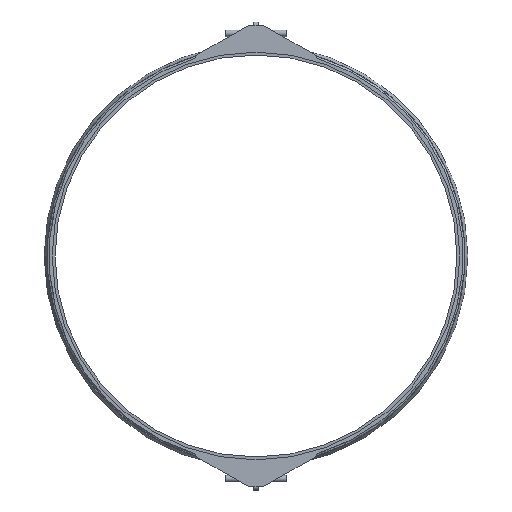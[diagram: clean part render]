
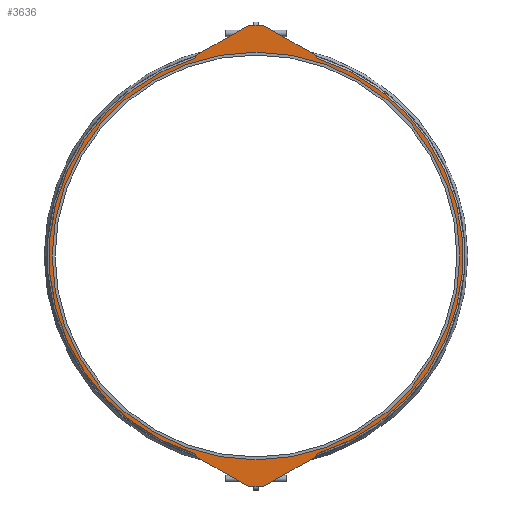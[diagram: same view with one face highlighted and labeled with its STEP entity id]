
A CAD part, left-side view. The second image highlights one B-rep face of the part: STEP entity #3636.
In plain terms, the highlighted planar face has unit normal (-1, 0, 0).
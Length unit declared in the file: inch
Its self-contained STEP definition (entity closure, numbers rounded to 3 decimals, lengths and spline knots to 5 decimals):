
#94=FACE_BOUND('',#642,.T.);
#230=PLANE('',#3965);
#421=FACE_OUTER_BOUND('',#641,.T.);
#641=EDGE_LOOP('',(#3188,#3189,#3190,#3191,#3192,#3193,#3194,#3195,#3196,
#3197,#3198,#3199,#3200,#3201,#3202,#3203,#3204,#3205,#3206,#3207));
#642=EDGE_LOOP('',(#3208,#3209));
#763=LINE('',#5299,#1114);
#769=LINE('',#5315,#1120);
#772=LINE('',#5325,#1123);
#777=LINE('',#5336,#1128);
#779=LINE('',#5361,#1130);
#938=LINE('',#5894,#1289);
#949=LINE('',#5925,#1300);
#951=LINE('',#5932,#1302);
#955=LINE('',#5941,#1306);
#958=LINE('',#5949,#1309);
#1114=VECTOR('',#4267,0.3937);
#1120=VECTOR('',#4281,0.3937);
#1123=VECTOR('',#4292,0.3937);
#1128=VECTOR('',#4303,0.3937);
#1130=VECTOR('',#4311,0.3937);
#1289=VECTOR('',#4724,0.3937);
#1300=VECTOR('',#4751,0.3937);
#1302=VECTOR('',#4759,0.3937);
#1306=VECTOR('',#4769,0.3937);
#1309=VECTOR('',#4778,0.3937);
#1369=CIRCLE('',#3742,0.063);
#1371=CIRCLE('',#3746,0.125);
#1372=CIRCLE('',#3749,0.125);
#1373=CIRCLE('',#3752,0.063);
#1376=CIRCLE('',#3758,27.425);
#1377=CIRCLE('',#3760,27.425);
#1423=CIRCLE('',#3890,0.063);
#1424=CIRCLE('',#3893,0.125);
#1425=CIRCLE('',#3896,0.125);
#1426=CIRCLE('',#3899,0.063);
#1461=CIRCLE('',#3963,27.);
#1462=CIRCLE('',#3964,27.);
#1562=VERTEX_POINT('',#5279);
#1563=VERTEX_POINT('',#5298);
#1566=VERTEX_POINT('',#5305);
#1567=VERTEX_POINT('',#5307);
#1569=VERTEX_POINT('',#5313);
#1571=VERTEX_POINT('',#5319);
#1572=VERTEX_POINT('',#5323);
#1574=VERTEX_POINT('',#5330);
#1575=VERTEX_POINT('',#5334);
#1577=VERTEX_POINT('',#5341);
#1580=VERTEX_POINT('',#5369);
#1581=VERTEX_POINT('',#5390);
#1716=VERTEX_POINT('',#5893);
#1728=VERTEX_POINT('',#5923);
#1729=VERTEX_POINT('',#5927);
#1730=VERTEX_POINT('',#5931);
#1731=VERTEX_POINT('',#5935);
#1732=VERTEX_POINT('',#5940);
#1733=VERTEX_POINT('',#5944);
#1734=VERTEX_POINT('',#5948);
#1777=VERTEX_POINT('',#6091);
#1778=VERTEX_POINT('',#6093);
#1923=EDGE_CURVE('',#1562,#1563,#763,.T.);
#1927=EDGE_CURVE('',#1566,#1567,#1369,.T.);
#1931=EDGE_CURVE('',#1569,#1566,#769,.T.);
#1934=EDGE_CURVE('',#1571,#1569,#1371,.T.);
#1936=EDGE_CURVE('',#1572,#1571,#772,.T.);
#1940=EDGE_CURVE('',#1574,#1572,#1372,.T.);
#1942=EDGE_CURVE('',#1575,#1574,#777,.T.);
#1943=EDGE_CURVE('',#1563,#1575,#1373,.T.);
#1946=EDGE_CURVE('',#1567,#1577,#779,.T.);
#1951=EDGE_CURVE('',#1562,#1580,#1376,.T.);
#1952=EDGE_CURVE('',#1581,#1577,#1377,.T.);
#2155=EDGE_CURVE('',#1716,#1581,#938,.T.);
#2171=EDGE_CURVE('',#1580,#1728,#949,.T.);
#2172=EDGE_CURVE('',#1729,#1716,#1423,.T.);
#2174=EDGE_CURVE('',#1730,#1729,#951,.T.);
#2176=EDGE_CURVE('',#1731,#1730,#1424,.T.);
#2179=EDGE_CURVE('',#1732,#1731,#955,.T.);
#2181=EDGE_CURVE('',#1733,#1732,#1425,.T.);
#2183=EDGE_CURVE('',#1734,#1733,#958,.T.);
#2185=EDGE_CURVE('',#1728,#1734,#1426,.T.);
#2254=EDGE_CURVE('',#1778,#1777,#1461,.T.);
#2255=EDGE_CURVE('',#1777,#1778,#1462,.T.);
#3188=ORIENTED_EDGE('',*,*,#1952,.T.);
#3189=ORIENTED_EDGE('',*,*,#1946,.F.);
#3190=ORIENTED_EDGE('',*,*,#1927,.F.);
#3191=ORIENTED_EDGE('',*,*,#1931,.F.);
#3192=ORIENTED_EDGE('',*,*,#1934,.F.);
#3193=ORIENTED_EDGE('',*,*,#1936,.F.);
#3194=ORIENTED_EDGE('',*,*,#1940,.F.);
#3195=ORIENTED_EDGE('',*,*,#1942,.F.);
#3196=ORIENTED_EDGE('',*,*,#1943,.F.);
#3197=ORIENTED_EDGE('',*,*,#1923,.F.);
#3198=ORIENTED_EDGE('',*,*,#1951,.T.);
#3199=ORIENTED_EDGE('',*,*,#2171,.T.);
#3200=ORIENTED_EDGE('',*,*,#2185,.T.);
#3201=ORIENTED_EDGE('',*,*,#2183,.T.);
#3202=ORIENTED_EDGE('',*,*,#2181,.T.);
#3203=ORIENTED_EDGE('',*,*,#2179,.T.);
#3204=ORIENTED_EDGE('',*,*,#2176,.T.);
#3205=ORIENTED_EDGE('',*,*,#2174,.T.);
#3206=ORIENTED_EDGE('',*,*,#2172,.T.);
#3207=ORIENTED_EDGE('',*,*,#2155,.T.);
#3208=ORIENTED_EDGE('',*,*,#2254,.T.);
#3209=ORIENTED_EDGE('',*,*,#2255,.T.);
#3636=ADVANCED_FACE('',(#421,#94),#230,.T.);
#3742=AXIS2_PLACEMENT_3D('',#5308,#4274,#4275);
#3746=AXIS2_PLACEMENT_3D('',#5321,#4287,#4288);
#3749=AXIS2_PLACEMENT_3D('',#5332,#4298,#4299);
#3752=AXIS2_PLACEMENT_3D('',#5338,#4306,#4307);
#3758=AXIS2_PLACEMENT_3D('',#5388,#4321,#4322);
#3760=AXIS2_PLACEMENT_3D('',#5391,#4325,#4326);
#3890=AXIS2_PLACEMENT_3D('',#5928,#4754,#4755);
#3893=AXIS2_PLACEMENT_3D('',#5936,#4763,#4764);
#3896=AXIS2_PLACEMENT_3D('',#5945,#4773,#4774);
#3899=AXIS2_PLACEMENT_3D('',#5952,#4782,#4783);
#3963=AXIS2_PLACEMENT_3D('',#6094,#4944,#4945);
#3964=AXIS2_PLACEMENT_3D('',#6095,#4946,#4947);
#3965=AXIS2_PLACEMENT_3D('',#6096,#4948,#4949);
#4267=DIRECTION('',(0.,0.,-1.));
#4274=DIRECTION('center_axis',(1.,0.,0.));
#4275=DIRECTION('ref_axis',(0.,-1.,0.));
#4281=DIRECTION('',(0.,0.867,0.498));
#4287=DIRECTION('center_axis',(1.,0.,0.));
#4288=DIRECTION('ref_axis',(0.,-0.498,0.867));
#4292=DIRECTION('',(0.,1.,0.));
#4298=DIRECTION('center_axis',(1.,0.,0.));
#4299=DIRECTION('ref_axis',(0.,0.,1.));
#4303=DIRECTION('',(0.,0.867,-0.498));
#4306=DIRECTION('center_axis',(1.,0.,0.));
#4307=DIRECTION('ref_axis',(0.,0.498,0.867));
#4311=DIRECTION('',(0.,0.,1.));
#4321=DIRECTION('center_axis',(-1.,0.,0.));
#4322=DIRECTION('ref_axis',(0.,0.,1.));
#4325=DIRECTION('center_axis',(-1.,0.,0.));
#4326=DIRECTION('ref_axis',(0.,0.,1.));
#4724=DIRECTION('',(0.,0.,-1.));
#4751=DIRECTION('',(0.,0.,1.));
#4754=DIRECTION('center_axis',(-1.,0.,0.));
#4755=DIRECTION('ref_axis',(0.,-1.,0.));
#4759=DIRECTION('',(0.,0.867,-0.498));
#4763=DIRECTION('center_axis',(-1.,0.,0.));
#4764=DIRECTION('ref_axis',(0.,-0.498,-0.867));
#4769=DIRECTION('',(0.,1.,0.));
#4773=DIRECTION('center_axis',(-1.,0.,0.));
#4774=DIRECTION('ref_axis',(0.,0.,-1.));
#4778=DIRECTION('',(0.,0.867,0.498));
#4782=DIRECTION('center_axis',(-1.,0.,0.));
#4783=DIRECTION('ref_axis',(0.,0.498,-0.867));
#4944=DIRECTION('center_axis',(1.,0.,0.));
#4945=DIRECTION('ref_axis',(0.,0.,-1.));
#4946=DIRECTION('center_axis',(1.,0.,0.));
#4947=DIRECTION('ref_axis',(0.,0.,-1.));
#4948=DIRECTION('center_axis',(-1.,0.,0.));
#4949=DIRECTION('ref_axis',(0.,0.,1.));
#5279=CARTESIAN_POINT('',(-3.25,-8.,-26.23224));
#5298=CARTESIAN_POINT('',(-3.25,-8.,-26.49576));
#5299=CARTESIAN_POINT('',(-3.25,-8.,-26.23224));
#5305=CARTESIAN_POINT('',(-3.25,7.96836,-26.5504));
#5307=CARTESIAN_POINT('',(-3.25,8.,-26.49576));
#5308=CARTESIAN_POINT('Origin',(-3.25,7.937,-26.49576));
#5313=CARTESIAN_POINT('',(-3.25,1.0289,-30.53341));
#5315=CARTESIAN_POINT('',(-3.25,1.0289,-30.53341));
#5319=CARTESIAN_POINT('',(-3.25,0.96668,-30.55));
#5321=CARTESIAN_POINT('Origin',(-3.25,0.96668,-30.425));
#5323=CARTESIAN_POINT('',(-3.25,-0.96668,-30.55));
#5325=CARTESIAN_POINT('',(-3.25,0.,-30.55));
#5330=CARTESIAN_POINT('',(-3.25,-1.0289,-30.53341));
#5332=CARTESIAN_POINT('Origin',(-3.25,-0.96668,-30.425));
#5334=CARTESIAN_POINT('',(-3.25,-7.96836,-26.5504));
#5336=CARTESIAN_POINT('',(-3.25,-7.96836,-26.5504));
#5338=CARTESIAN_POINT('Origin',(-3.25,-7.937,-26.49576));
#5341=CARTESIAN_POINT('',(-3.25,8.,-26.23224));
#5361=CARTESIAN_POINT('',(-3.25,8.,-26.49576));
#5369=CARTESIAN_POINT('',(-3.25,-8.,26.23224));
#5388=CARTESIAN_POINT('Origin',(-3.25,0.,0.));
#5390=CARTESIAN_POINT('',(-3.25,8.,26.23224));
#5391=CARTESIAN_POINT('Origin',(-3.25,0.,0.));
#5893=CARTESIAN_POINT('',(-3.25,8.,26.49576));
#5894=CARTESIAN_POINT('',(-3.25,8.,26.49576));
#5923=CARTESIAN_POINT('',(-3.25,-8.,26.49576));
#5925=CARTESIAN_POINT('',(-3.25,-8.,26.23224));
#5927=CARTESIAN_POINT('',(-3.25,7.96836,26.5504));
#5928=CARTESIAN_POINT('Origin',(-3.25,7.937,26.49576));
#5931=CARTESIAN_POINT('',(-3.25,1.0289,30.53341));
#5932=CARTESIAN_POINT('',(-3.25,1.0289,30.53341));
#5935=CARTESIAN_POINT('',(-3.25,0.96668,30.55));
#5936=CARTESIAN_POINT('Origin',(-3.25,0.96668,30.425));
#5940=CARTESIAN_POINT('',(-3.25,-0.96668,30.55));
#5941=CARTESIAN_POINT('',(-3.25,0.,30.55));
#5944=CARTESIAN_POINT('',(-3.25,-1.0289,30.53341));
#5945=CARTESIAN_POINT('Origin',(-3.25,-0.96668,30.425));
#5948=CARTESIAN_POINT('',(-3.25,-7.96836,26.5504));
#5949=CARTESIAN_POINT('',(-3.25,-7.96836,26.5504));
#5952=CARTESIAN_POINT('Origin',(-3.25,-7.937,26.49576));
#6091=CARTESIAN_POINT('',(-3.25,-27.,0.));
#6093=CARTESIAN_POINT('',(-3.25,27.,0.));
#6094=CARTESIAN_POINT('Origin',(-3.25,0.,0.));
#6095=CARTESIAN_POINT('Origin',(-3.25,0.,0.));
#6096=CARTESIAN_POINT('Origin',(-3.25,27.675,0.));
